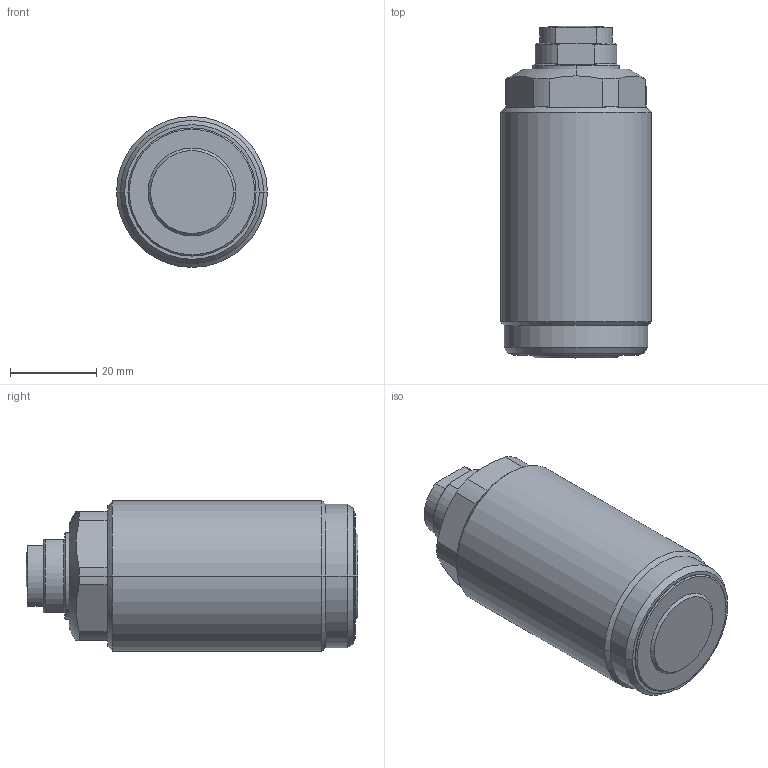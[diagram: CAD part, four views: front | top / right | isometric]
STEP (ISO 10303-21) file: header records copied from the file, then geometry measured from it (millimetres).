
FILE_DESCRIPTION(/* description */ (''),/* implementation_level */ '2;1');
FILE_NAME(/* name */ 'PGSC10-L.stp',/* time_stamp */ '2025-01-05T10:57:32+08:00',/* author */ (''),/* organization */ (''),/* preprocessor_version */ 'ST-DEVELOPER v16.7',/* originating_system */ 'SIEMENS PLM Software NX 12.0',/* authorisation */ '');
FILE_SCHEMA (('AUTOMOTIVE_DESIGN { 1 0 10303 214 3 1 1 1 }'));
Length unit declared in the file: millimetre
Products named in the file (4): PGSC10-L-03; PGSC10-L-02; PGSC10-L; CSW10M-L_step
Assembly tree (3 placements, depth 2):
  CSW10M-L_step
    PGSC10-L
    PGSC10-L-02
    PGSC10-L-03
Bounding box: 35 x 77 x 35 mm (x, y, z)
Volume: 62572.1 mm3; surface area: 12430.2 mm2
Topology: 3 solids, 3 shells, 88 faces, 204 edges, 128 vertices
Faces by surface type: cylinder 31, plane 29, cone 22, torus 4, sphere 2
Entity records: 2655 total; most frequent: CARTESIAN_POINT 516, DIRECTION 463, ORIENTED_EDGE 408, EDGE_CURVE 204, AXIS2_PLACEMENT_3D 195, VERTEX_POINT 128, CIRCLE 103, EDGE_LOOP 96
